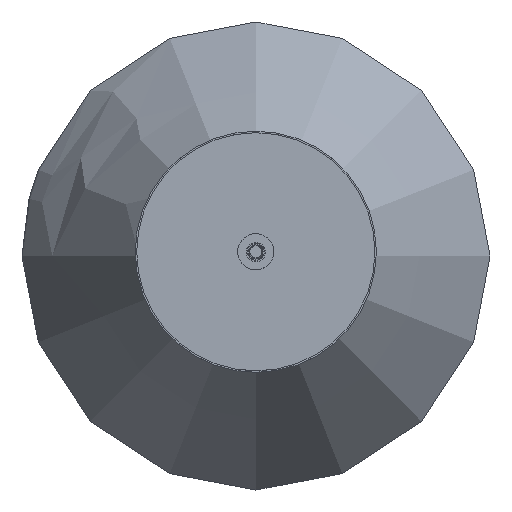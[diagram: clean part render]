
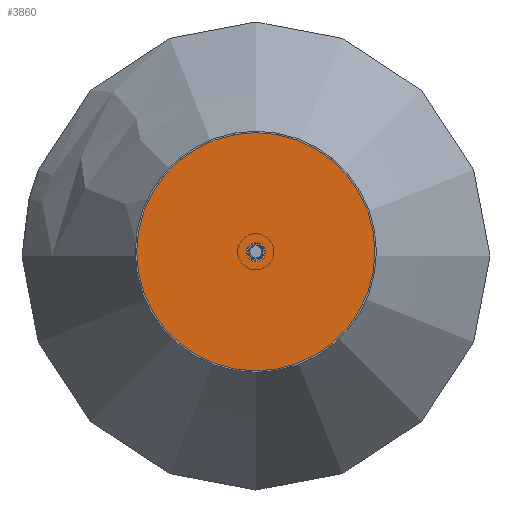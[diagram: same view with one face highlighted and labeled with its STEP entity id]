
A CAD part, top view. The second image highlights one B-rep face of the part: STEP entity #3860.
In plain terms, the highlighted planar face has unit normal (0, 0, 1).
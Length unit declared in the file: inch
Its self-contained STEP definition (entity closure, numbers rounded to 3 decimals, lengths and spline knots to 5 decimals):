
#35=FACE_BOUND('',#470,.T.);
#114=PLANE('',#4154);
#221=FACE_OUTER_BOUND('',#469,.T.);
#469=EDGE_LOOP('',(#2796));
#470=EDGE_LOOP('',(#2797));
#1395=CIRCLE('',#4149,0.2);
#1397=CIRCLE('',#4152,2.47);
#1561=VERTEX_POINT('',#8655);
#1563=VERTEX_POINT('',#8661);
#2017=EDGE_CURVE('',#1561,#1561,#1395,.T.);
#2020=EDGE_CURVE('',#1563,#1563,#1397,.F.);
#2796=ORIENTED_EDGE('',*,*,#2020,.T.);
#2797=ORIENTED_EDGE('',*,*,#2017,.T.);
#3860=ADVANCED_FACE('',(#221,#35),#114,.T.);
#4149=AXIS2_PLACEMENT_3D('',#8656,#4651,#4652);
#4152=AXIS2_PLACEMENT_3D('',#8662,#4658,#4659);
#4154=AXIS2_PLACEMENT_3D('',#8666,#4663,#4664);
#4651=DIRECTION('center_axis',(0.,0.,-1.));
#4652=DIRECTION('ref_axis',(1.,0.,0.));
#4658=DIRECTION('center_axis',(0.,0.,-1.));
#4659=DIRECTION('ref_axis',(1.,0.,0.));
#4663=DIRECTION('center_axis',(0.,0.,1.));
#4664=DIRECTION('ref_axis',(1.,0.,0.));
#8655=CARTESIAN_POINT('',(-0.19813,-0.00889,47.73));
#8656=CARTESIAN_POINT('Origin',(0.00187,-0.00889,
47.73));
#8661=CARTESIAN_POINT('',(-2.47,0.,47.73));
#8662=CARTESIAN_POINT('Origin',(0.,0.,47.73));
#8666=CARTESIAN_POINT('Origin',(0.,0.,47.73));
